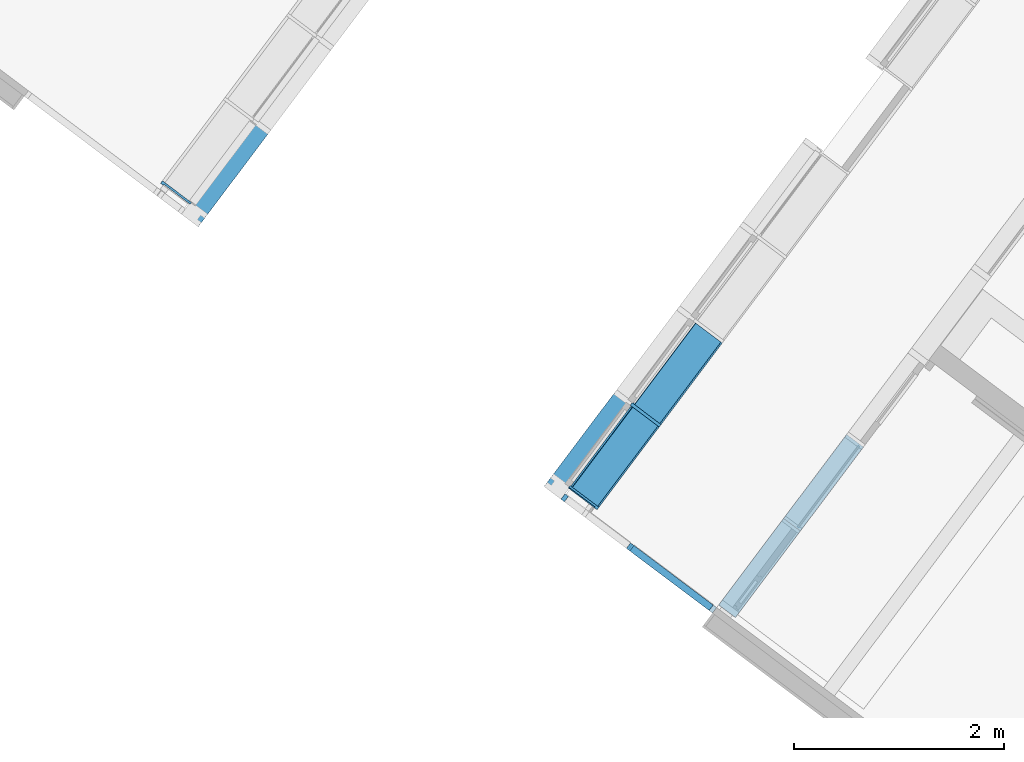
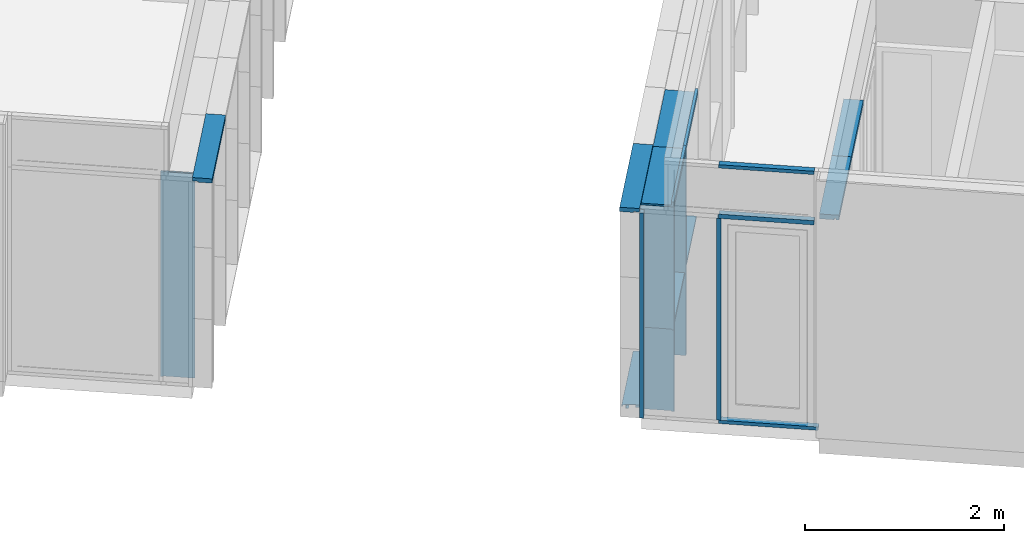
# One storey, part 3 of 243: 19 members, 6 elements without a shape of their own.
"""IFC2X3 building model written with IfcOpenShell, lengths in metres."""

from ifc_helpers import new_model, entity, si_unit, converted_unit, derived_unit, direction, frame, frame_2d, origin, place, context, subcontext, project, spatial, polyline, circle_curve, parameter, trimmed, segment, composite_curve, rectangle, outline, extrude, source, transform, mapped, material, type_object, type_shapes, element, aggregate, save


model = new_model("IFC2X3")

# Units and contexts
model_context = context("Model", 3, precision=1e-05, world=origin(), true_north=direction((6.123031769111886e-17, 1.0)))
body_context = subcontext(model_context, "Body", "Model", "MODEL_VIEW")
ifc_project = project(units=[si_unit("LENGTHUNIT", "METRE"), si_unit("AREAUNIT", "SQUARE_METRE"), si_unit("VOLUMEUNIT", "CUBIC_METRE"), converted_unit("PLANEANGLEUNIT", "DEGREE", entity("IfcRatioMeasure", 0.017453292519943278), si_unit("PLANEANGLEUNIT", "RADIAN"), dimensions=[0, 0, 0, 0, 0, 0, 0]), si_unit("MASSUNIT", "GRAM", prefix="KILO"), derived_unit("MASSDENSITYUNIT", [(si_unit("MASSUNIT", "GRAM", prefix="KILO"), 1), (si_unit("LENGTHUNIT", "METRE"), -3)]), derived_unit("IONCONCENTRATIONUNIT", [(si_unit("MASSUNIT", "GRAM", prefix="KILO"), 1), (si_unit("LENGTHUNIT", "METRE"), -3)]), derived_unit("MOMENTOFINERTIAUNIT", [(si_unit("LENGTHUNIT", "METRE"), 4)]), si_unit("TIMEUNIT", "SECOND"), si_unit("FREQUENCYUNIT", "HERTZ"), si_unit("THERMODYNAMICTEMPERATUREUNIT", "DEGREE_CELSIUS"), derived_unit("THERMALTRANSMITTANCEUNIT", [(si_unit("MASSUNIT", "GRAM", prefix="KILO"), 1), (si_unit("THERMODYNAMICTEMPERATUREUNIT", "KELVIN"), -1), (si_unit("TIMEUNIT", "SECOND"), -3)]), derived_unit("THERMALCONDUCTANCEUNIT", [(si_unit("MASSUNIT", "GRAM", prefix="KILO"), 1), (si_unit("THERMODYNAMICTEMPERATUREUNIT", "KELVIN"), -1), (si_unit("TIMEUNIT", "SECOND"), -3), (si_unit("LENGTHUNIT", "METRE"), 1)]), derived_unit("VOLUMETRICFLOWRATEUNIT", [(si_unit("LENGTHUNIT", "METRE"), 3), (si_unit("TIMEUNIT", "SECOND"), -1)]), derived_unit("MASSFLOWRATEUNIT", [(si_unit("MASSUNIT", "GRAM", prefix="KILO"), 1), (si_unit("TIMEUNIT", "SECOND"), -1)]), derived_unit("ROTATIONALFREQUENCYUNIT", [(si_unit("TIMEUNIT", "SECOND"), -1)]), si_unit("ELECTRICCURRENTUNIT", "AMPERE"), si_unit("ELECTRICVOLTAGEUNIT", "VOLT"), si_unit("POWERUNIT", "WATT"), si_unit("FORCEUNIT", "NEWTON", prefix="KILO"), si_unit("ILLUMINANCEUNIT", "LUX"), si_unit("LUMINOUSFLUXUNIT", "LUMEN"), si_unit("LUMINOUSINTENSITYUNIT", "CANDELA"), derived_unit("USERDEFINED", [(si_unit("MASSUNIT", "GRAM", prefix="KILO"), -1), (si_unit("LENGTHUNIT", "METRE"), -2), (si_unit("TIMEUNIT", "SECOND"), 3), (si_unit("LUMINOUSFLUXUNIT", "LUMEN"), 1)]), derived_unit("USERDEFINED", [(si_unit("MASSUNIT", "GRAM", prefix="KILO"), 1), (si_unit("TIMEUNIT", "SECOND"), -3), (si_unit("LENGTHUNIT", "METRE"), 3), (si_unit("ELECTRICCURRENTUNIT", "AMPERE"), -2)]), derived_unit("SOUNDPOWERUNIT", [(si_unit("MASSUNIT", "GRAM", prefix="KILO"), 1), (si_unit("TIMEUNIT", "SECOND"), -3), (si_unit("LENGTHUNIT", "METRE"), 2)]), derived_unit("SOUNDPRESSUREUNIT", [(si_unit("MASSUNIT", "GRAM", prefix="KILO"), 1), (si_unit("LENGTHUNIT", "METRE"), -1), (si_unit("TIMEUNIT", "SECOND"), -2)]), derived_unit("LINEARVELOCITYUNIT", [(si_unit("LENGTHUNIT", "METRE"), 1), (si_unit("TIMEUNIT", "SECOND"), -1)]), si_unit("PRESSUREUNIT", "PASCAL"), derived_unit("USERDEFINED", [(si_unit("MASSUNIT", "GRAM", prefix="KILO"), 1), (si_unit("LENGTHUNIT", "METRE"), -2), (si_unit("TIMEUNIT", "SECOND"), -2)]), derived_unit("LINEARFORCEUNIT", [(si_unit("MASSUNIT", "GRAM", prefix="KILO"), 1), (si_unit("TIMEUNIT", "SECOND"), -2)]), derived_unit("PLANARFORCEUNIT", [(si_unit("MASSUNIT", "GRAM", prefix="KILO"), 1), (si_unit("LENGTHUNIT", "METRE"), -1), (si_unit("TIMEUNIT", "SECOND"), -2)]), derived_unit("SPECIFICHEATCAPACITYUNIT", [(si_unit("THERMODYNAMICTEMPERATUREUNIT", "KELVIN"), -1), (si_unit("LENGTHUNIT", "METRE"), 2), (si_unit("TIMEUNIT", "SECOND"), -2)]), derived_unit("HEATINGVALUEUNIT", [(si_unit("LENGTHUNIT", "METRE"), 2), (si_unit("TIMEUNIT", "SECOND"), -2)]), derived_unit("VAPORPERMEABILITYUNIT", [(si_unit("LENGTHUNIT", "METRE"), -1), (si_unit("TIMEUNIT", "SECOND"), 1)]), derived_unit("DYNAMICVISCOSITYUNIT", [(si_unit("MASSUNIT", "GRAM", prefix="KILO"), 1), (si_unit("TIMEUNIT", "SECOND"), -1), (si_unit("LENGTHUNIT", "METRE"), -1)]), derived_unit("THERMALEXPANSIONCOEFFICIENTUNIT", [(si_unit("THERMODYNAMICTEMPERATUREUNIT", "KELVIN"), -1)]), derived_unit("MODULUSOFELASTICITYUNIT", [(si_unit("MASSUNIT", "GRAM", prefix="KILO"), 1), (si_unit("LENGTHUNIT", "METRE"), -1), (si_unit("TIMEUNIT", "SECOND"), -2)]), derived_unit("ISOTHERMALMOISTURECAPACITYUNIT", [(si_unit("LENGTHUNIT", "METRE"), 3), (si_unit("MASSUNIT", "GRAM", prefix="KILO"), -1)]), derived_unit("MOISTUREDIFFUSIVITYUNIT", [(si_unit("TIMEUNIT", "SECOND"), -1), (si_unit("LENGTHUNIT", "METRE"), 2)])], contexts=[model_context])

# Site, building, storey
site_placement = place(None, frame((0.0, 0.0, 235.0), z_axis=(0.0, 0.0, 1.0), x_axis=(-0.7996477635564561, 0.6004693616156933, 0.0)))
site = spatial("IfcSite", under=ifc_project, at=site_placement, Name="Default", CompositionType="ELEMENT")
building_placement = place(site_placement, origin())
building = spatial("IfcBuilding", under=site, at=building_placement, CompositionType="ELEMENT")
storey_placement = place(building_placement, origin())
storey = spatial("IfcBuildingStorey", under=building, at=storey_placement, Name="P0- Escola", CompositionType="ELEMENT", Elevation=0.0)

# Curtain wall, members
curtain_wall_type_1 = type_object("IfcCurtainWallType", Name="Muro cortina:MC- INT- a1", PredefinedType="NOTDEFINED")
curtain_wall_1_placement = place(storey_placement, origin())
curtain_wall_1 = element("IfcCurtainWall", 1, at=curtain_wall_1_placement, inside=storey, type_object=curtain_wall_type_1, Name="Muro cortina:MC- INT- a1", ObjectType="Muro cortina:MC- INT- a1")
ifc_material_1 = material(Name="_Fusta massisa- T1")
member_type_1 = type_object("IfcMemberType", Name="Montante rectangular:MC- Fusta- 20x6 cm- Esquerra", PredefinedType="MULLION", material=ifc_material_1)
shared_shape_1 = source(origin(), body_context, "Body", "SweptSolid", [
    extrude(outline(polyline([(-0.07000000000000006, -0.01875000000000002), (-0.04000000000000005, -0.01875000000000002), (-0.04000000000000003, -0.0037500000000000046), (-0.02, -0.0037500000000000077), (-0.019999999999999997, -0.018750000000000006), (0.13, -0.018749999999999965), (0.12999999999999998, 0.04125000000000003), (-0.06999999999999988, 0.04124999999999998), (-0.07000000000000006, -0.01875000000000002)])), frame((-0.041249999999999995, -0.029999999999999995, -1.0), z_axis=(0.0, 0.0, 1.0), x_axis=(0.0, -1.0, 0.0)), (0.0, 0.0, 1.0), 0.9999999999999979),
])
type_shapes(member_type_1, [shared_shape_1])
member_1_placement = place(curtain_wall_1_placement, frame((47.32014768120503, -22.41518997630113, 2.565), z_axis=(0.0, -1.0, 0.0), x_axis=(0.0, 0.0, 1.0)))
member_1 = element("IfcMember", 2, at=member_1_placement, type_object=member_type_1, material=ifc_material_1, Name="Montante rectangular:MC- Fusta- 20x6 cm- Esquerra", ObjectType="Montante rectangular:MC- Fusta- 20x6 cm- Esquerra", context=body_context, shape_type="MappedRepresentation", body=[
    mapped(shared_shape_1, transform((0.0, 0.0, 0.0), scale=1.0)),
])
member_type_2 = type_object("IfcMemberType", Name="Montante rectangular:MC- Fusta- 20x6 cm- Esquerra", PredefinedType="MULLION", material=ifc_material_1)
shared_shape_2 = source(origin(), body_context, "Body", "SweptSolid", [
    extrude(outline(polyline([(-0.07000000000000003, -0.01875000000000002), (-0.04000000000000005, -0.01875000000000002), (-0.04000000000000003, -0.0037500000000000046), (-0.020000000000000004, -0.0037500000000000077), (-0.02, -0.018750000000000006), (0.13, -0.018749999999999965), (0.12999999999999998, 0.04125000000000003), (-0.06999999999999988, 0.04124999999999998), (-0.07000000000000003, -0.01875000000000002)])), frame((-0.041249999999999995, -0.03, -1.0299999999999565), z_axis=(0.0, 0.0, 1.0), x_axis=(0.0, -1.0, 0.0)), (0.0, 0.0, 1.0), 1.0299999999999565),
])
type_shapes(member_type_2, [shared_shape_2])
member_2_placement = place(curtain_wall_1_placement, frame((47.32014768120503, -21.415189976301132, 2.565), z_axis=(0.0, -1.0, 0.0), x_axis=(0.0, 0.0, 1.0)))
member_2 = element("IfcMember", 3, at=member_2_placement, type_object=member_type_2, material=ifc_material_1, Name="Montante rectangular:MC- Fusta- 20x6 cm- Esquerra", ObjectType="Montante rectangular:MC- Fusta- 20x6 cm- Esquerra", context=body_context, shape_type="MappedRepresentation", body=[
    mapped(shared_shape_2, transform((0.0, 0.0, 0.0), scale=1.0)),
])
aggregate(curtain_wall_1, [member_1, member_2])

# Curtain wall, member
curtain_wall_type_2 = type_object("IfcCurtainWallType", Name="Muro cortina:MC- INT- k7- Aules infantil", PredefinedType="NOTDEFINED")
curtain_wall_2_placement = place(storey_placement, origin())
curtain_wall_2 = element("IfcCurtainWall", 4, at=curtain_wall_2_placement, inside=storey, type_object=curtain_wall_type_2, Name="Muro cortina:MC- INT- k7- Aules infantil", ObjectType="Muro cortina:MC- INT- k7- Aules infantil")
member_type_3 = type_object("IfcMemberType", Name="Montante rectangular:MC- Fusta- 35x3 cm- Pati aules- Remat esquerra", PredefinedType="MULLION", material=ifc_material_1)
shared_shape_3 = source(origin(), body_context, "Body", "SweptSolid", [
    extrude(outline(polyline([(-0.22000000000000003, -0.01666666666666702), (0.12500000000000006, -0.01666666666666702), (0.125, 0.013333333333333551), (0.09500000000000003, 0.013333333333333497), (0.09500000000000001, 0.003333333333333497), (-0.22000000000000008, 0.003333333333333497), (-0.22000000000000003, -0.01666666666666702)])), frame((-0.013333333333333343, 0.03000000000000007, -2.504999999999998), z_axis=(0.0, 0.0, 1.0), x_axis=(0.0, -1.0, 0.0)), (0.0, 0.0, 1.0), 2.5049999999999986),
])
type_shapes(member_type_3, [shared_shape_3])
member_3_placement = place(curtain_wall_2_placement, frame((54.04514768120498, -20.40519175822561, 2.5049999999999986), z_axis=(0.0, 0.0, 1.0), x_axis=(0.0, 1.0, 0.0)))
member_3 = element("IfcMember", 5, at=member_3_placement, type_object=member_type_3, material=ifc_material_1, Name="Montante rectangular:MC- Fusta- 35x3 cm- Pati aules- Remat esquerra", ObjectType="Montante rectangular:MC- Fusta- 35x3 cm- Pati aules- Remat esquerra", context=body_context, shape_type="MappedRepresentation", body=[
    mapped(shared_shape_3, transform((0.0, 0.0, 0.0), scale=1.0)),
])
aggregate(curtain_wall_2, [member_3])

# Curtain wall, members
curtain_wall_type_3 = type_object("IfcCurtainWallType", Name="Muro cortina:MC- INT- k2", PredefinedType="NOTDEFINED")
curtain_wall_3_placement = place(storey_placement, origin())
curtain_wall_3 = element("IfcCurtainWall", 6, at=curtain_wall_3_placement, inside=storey, type_object=curtain_wall_type_3, Name="Muro cortina:MC- INT- k2", ObjectType="Muro cortina:MC- INT- k2")
member_type_4 = type_object("IfcMemberType", Name="Montante rectangular:MC- Fusta- 35x3 cm- Pati aules- Remat esquerra", PredefinedType="MULLION", material=ifc_material_1)
shared_shape_4 = source(origin(), body_context, "Body", "SweptSolid", [
    extrude(outline(polyline([(-0.12500000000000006, -0.01666666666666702), (0.22000000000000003, -0.01666666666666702), (0.22000000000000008, 0.003333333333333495), (-0.09499999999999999, 0.003333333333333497), (-0.09500000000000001, 0.013333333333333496), (-0.12499999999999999, 0.013333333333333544), (-0.12500000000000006, -0.01666666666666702)])), frame((-0.013333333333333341, -0.030000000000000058, -1.5049999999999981), z_axis=(0.0, 0.0, 1.0), x_axis=(0.0, -1.0, 0.0)), (0.0, 0.0, 1.0), 1.5049999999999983),
])
type_shapes(member_type_4, [shared_shape_4])
member_4_placement = place(curtain_wall_3_placement, frame((49.045147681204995, -20.415191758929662, 2.5049999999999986), z_axis=(0.0, 0.0, 1.0), x_axis=(0.0, 1.0, 0.0)))
member_4 = element("IfcMember", 7, at=member_4_placement, type_object=member_type_4, material=ifc_material_1, Name="Montante rectangular:MC- Fusta- 35x3 cm- Pati aules- Remat esquerra", ObjectType="Montante rectangular:MC- Fusta- 35x3 cm- Pati aules- Remat esquerra", context=body_context, shape_type="MappedRepresentation", body=[
    mapped(shared_shape_4, transform((0.0, 0.0, 0.0), scale=1.0)),
])
member_type_5 = type_object("IfcMemberType", Name="Montante rectangular:MC- Fusta- 35x3 cm- Pati aules- Remat superior", PredefinedType="MULLION", material=ifc_material_1)
shared_shape_5 = source(origin(), body_context, "Body", "SweptSolid", [
    extrude(outline(polyline([(-0.12166666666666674, -0.02666666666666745), (0.21333333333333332, -0.02666666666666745), (0.2133333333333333, -0.006666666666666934), (-0.09166666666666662, -0.006666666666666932), (-0.09166666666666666, 0.03333333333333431), (-0.12166666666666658, 0.03333333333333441), (-0.12166666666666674, -0.02666666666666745)])), frame((-0.033333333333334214, -0.026666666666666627, -1.0), z_axis=(0.0, 0.0, 1.0), x_axis=(0.0, -1.0, 0.0)), (0.0, 0.0, 1.0), 0.9999999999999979),
])
type_shapes(member_type_5, [shared_shape_5])
member_5_placement = place(curtain_wall_3_placement, frame((49.045147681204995, -21.41519175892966, 2.565), z_axis=(0.0, -1.0, 0.0), x_axis=(0.0, 0.0, 1.0)))
member_5 = element("IfcMember", 8, at=member_5_placement, type_object=member_type_5, material=ifc_material_1, Name="Montante rectangular:MC- Fusta- 35x3 cm- Pati aules- Remat superior", ObjectType="Montante rectangular:MC- Fusta- 35x3 cm- Pati aules- Remat superior", context=body_context, shape_type="MappedRepresentation", body=[
    mapped(shared_shape_5, transform((0.0, 0.0, 0.0), scale=1.0)),
])
member_type_6 = type_object("IfcMemberType", Name="Montante rectangular:MC- Fusta- 35x3 cm- Centre", PredefinedType="MULLION", material=ifc_material_1)
shared_shape_6 = source(origin(), body_context, "Body", "SweptSolid", [
    extrude(rectangle(XDim=0.3450000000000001, YDim=0.030000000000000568, at=frame_2d((0.0, -1.3964523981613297e-16), x_axis=(1.0, 0.0))), frame((0.0, -0.07750000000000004, -1.0), z_axis=(0.0, 0.0, 1.0), x_axis=(0.0, -1.0, 0.0)), (0.0, 0.0, 1.0), 1.0),
])
type_shapes(member_type_6, [shared_shape_6])
member_6_placement = place(curtain_wall_3_placement, frame((49.045147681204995, -21.41519175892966, 0.0), z_axis=(0.0, 0.0, -1.0), x_axis=(0.0, -1.0, 0.0)))
member_6 = element("IfcMember", 9, at=member_6_placement, type_object=member_type_6, material=ifc_material_1, Name="Montante rectangular:MC- Fusta- 35x3 cm- Centre", ObjectType="Montante rectangular:MC- Fusta- 35x3 cm- Centre", context=body_context, shape_type="MappedRepresentation", body=[
    mapped(shared_shape_6, transform((0.0, 0.0, 0.0), scale=1.0)),
])
member_type_7 = type_object("IfcMemberType", Name="Montante rectangular:MC- Fusta- 35x3 cm- Pati aules- Remat superior", PredefinedType="MULLION", material=ifc_material_1)
shared_shape_7 = source(origin(), body_context, "Body", "SweptSolid", [
    extrude(outline(polyline([(-0.12166666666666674, -0.02666666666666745), (0.21333333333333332, -0.02666666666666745), (0.2133333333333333, -0.006666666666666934), (-0.09166666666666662, -0.006666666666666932), (-0.09166666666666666, 0.03333333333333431), (-0.12166666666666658, 0.03333333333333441), (-0.12166666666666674, -0.02666666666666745)])), frame((-0.033333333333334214, -0.026666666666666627, -1.0), z_axis=(0.0, 0.0, 1.0), x_axis=(0.0, -1.0, 0.0)), (0.0, 0.0, 1.0), 0.9999999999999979),
])
type_shapes(member_type_7, [shared_shape_7])
member_7_placement = place(curtain_wall_3_placement, frame((49.045147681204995, -22.41519175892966, 2.565), z_axis=(0.0, -1.0, 0.0), x_axis=(0.0, 0.0, 1.0)))
member_7 = element("IfcMember", 10, at=member_7_placement, type_object=member_type_7, material=ifc_material_1, Name="Montante rectangular:MC- Fusta- 35x3 cm- Pati aules- Remat superior", ObjectType="Montante rectangular:MC- Fusta- 35x3 cm- Pati aules- Remat superior", context=body_context, shape_type="MappedRepresentation", body=[
    mapped(shared_shape_7, transform((0.0, 0.0, 0.0), scale=1.0)),
])
member_type_8 = type_object("IfcMemberType", Name="Montante rectangular:MC- Fusta- 35x3 cm- Pati aules- Remat esquerra", PredefinedType="MULLION", material=ifc_material_1)
shared_shape_8 = source(origin(), body_context, "Body", "SweptSolid", [
    extrude(outline(polyline([(-0.12500000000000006, -0.01666666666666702), (0.22000000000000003, -0.01666666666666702), (0.22000000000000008, 0.003333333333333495), (-0.09499999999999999, 0.003333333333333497), (-0.09500000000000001, 0.013333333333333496), (-0.12499999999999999, 0.013333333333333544), (-0.12500000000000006, -0.01666666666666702)])), frame((-0.013333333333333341, -0.030000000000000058, -1.0), z_axis=(0.0, 0.0, 1.0), x_axis=(0.0, -1.0, 0.0)), (0.0, 0.0, 1.0), 0.9999999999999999),
])
type_shapes(member_type_8, [shared_shape_8])
member_8_placement = place(curtain_wall_3_placement, frame((49.045147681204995, -20.415191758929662, 1.0), z_axis=(0.0, 0.0, 1.0), x_axis=(0.0, 1.0, 0.0)))
member_8 = element("IfcMember", 11, at=member_8_placement, type_object=member_type_8, material=ifc_material_1, Name="Montante rectangular:MC- Fusta- 35x3 cm- Pati aules- Remat esquerra", ObjectType="Montante rectangular:MC- Fusta- 35x3 cm- Pati aules- Remat esquerra", context=body_context, shape_type="MappedRepresentation", body=[
    mapped(shared_shape_8, transform((0.0, 0.0, 0.0), scale=1.0)),
])
member_type_9 = type_object("IfcMemberType", Name="Montante rectangular:MC- Fusta- 35x3 cm- Pati aules- Prestatge", PredefinedType="MULLION", material=ifc_material_1)
shared_shape_9 = source(origin(), body_context, "Body", "SweptSolid", [
    extrude(rectangle(XDim=0.30000000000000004, YDim=0.03000000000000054, at=frame_2d((0.0, -1.231653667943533e-16), x_axis=(1.0, 0.0))), frame((0.0, -0.07000000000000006, -0.9549999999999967), z_axis=(0.0, 0.0, 1.0), x_axis=(0.0, -1.0, 0.0)), (0.0, 0.0, 1.0), 0.954999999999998),
])
type_shapes(member_type_9, [shared_shape_9])
member_9_placement = place(curtain_wall_3_placement, frame((49.045147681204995, -21.400191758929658, 1.0), z_axis=(0.0, -1.0, 0.0), x_axis=(0.0, 0.0, 1.0)))
member_9 = element("IfcMember", 12, at=member_9_placement, type_object=member_type_9, material=ifc_material_1, Name="Montante rectangular:MC- Fusta- 35x3 cm- Pati aules- Prestatge", ObjectType="Montante rectangular:MC- Fusta- 35x3 cm- Pati aules- Prestatge", context=body_context, shape_type="MappedRepresentation", body=[
    mapped(shared_shape_9, transform((0.0, 0.0, 0.0), scale=1.0)),
])
member_type_10 = type_object("IfcMemberType", Name="Montante rectangular:MC- Fusta- 35x3 cm- Pati aules- Prestatge", PredefinedType="MULLION", material=ifc_material_1)
shared_shape_10 = source(origin(), body_context, "Body", "SweptSolid", [
    extrude(rectangle(XDim=0.30000000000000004, YDim=0.03000000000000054, at=frame_2d((0.0, -1.231653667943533e-16), x_axis=(1.0, 0.0))), frame((0.0, -0.07000000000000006, -0.9699999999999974), z_axis=(0.0, 0.0, 1.0), x_axis=(0.0, -1.0, 0.0)), (0.0, 0.0, 1.0), 0.969999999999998),
])
type_shapes(member_type_10, [shared_shape_10])
member_10_placement = place(curtain_wall_3_placement, frame((49.045147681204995, -22.400191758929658, 1.0), z_axis=(0.0, -1.0, 0.0), x_axis=(0.0, 0.0, 1.0)))
member_10 = element("IfcMember", 13, at=member_10_placement, type_object=member_type_10, material=ifc_material_1, Name="Montante rectangular:MC- Fusta- 35x3 cm- Pati aules- Prestatge", ObjectType="Montante rectangular:MC- Fusta- 35x3 cm- Pati aules- Prestatge", context=body_context, shape_type="MappedRepresentation", body=[
    mapped(shared_shape_10, transform((0.0, 0.0, 0.0), scale=1.0)),
])
member_type_11 = type_object("IfcMemberType", Name="Montante rectangular:MC- Fusta- 35x3 cm- Centre", PredefinedType="MULLION", material=ifc_material_1)
shared_shape_11 = source(origin(), body_context, "Body", "SweptSolid", [
    extrude(rectangle(XDim=0.3450000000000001, YDim=0.030000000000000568, at=frame_2d((0.0, -1.3964523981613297e-16), x_axis=(1.0, 0.0))), frame((0.0, -0.07750000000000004, -1.504999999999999), z_axis=(0.0, 0.0, 1.0), x_axis=(0.0, -1.0, 0.0)), (0.0, 0.0, 1.0), 1.504999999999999),
])
type_shapes(member_type_11, [shared_shape_11])
member_11_placement = place(curtain_wall_3_placement, frame((49.045147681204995, -21.41519175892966, 1.0), z_axis=(0.0, 0.0, -1.0), x_axis=(0.0, -1.0, 0.0)))
member_11 = element("IfcMember", 14, at=member_11_placement, type_object=member_type_11, material=ifc_material_1, Name="Montante rectangular:MC- Fusta- 35x3 cm- Centre", ObjectType="Montante rectangular:MC- Fusta- 35x3 cm- Centre", context=body_context, shape_type="MappedRepresentation", body=[
    mapped(shared_shape_11, transform((0.0, 0.0, 0.0), scale=1.0)),
])
aggregate(curtain_wall_3, [member_4, member_5, member_6, member_7, member_8, member_9, member_10, member_11])

# Curtain wall, member
curtain_wall_type_4 = type_object("IfcCurtainWallType", Name="Muro cortina:MC- EXT- MC2", PredefinedType="NOTDEFINED")
curtain_wall_4_placement = place(storey_placement, origin())
curtain_wall_4 = element("IfcCurtainWall", 15, at=curtain_wall_4_placement, inside=storey, type_object=curtain_wall_type_4, Name="Muro cortina:MC- EXT- MC2", ObjectType="Muro cortina:MC- EXT- MC2")
ifc_material_2 = material(Name="_Alumini- T1- Perfil")
member_type_12 = type_object("IfcMemberType", Name="Montante rectangular:MC- Alu- 140x52,5 cm- Fa patis- Superior", PredefinedType="MULLION", material=ifc_material_2)
shared_shape_12 = source(origin(), body_context, "Body", "SweptSolid", [
    extrude(outline(polyline([(-0.11366666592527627, -0.021249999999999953), (0.02633333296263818, -0.021249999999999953), (0.02633333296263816, -0.010000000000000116), (0.08733333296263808, -0.010000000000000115), (0.08733333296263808, 0.03125000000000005), (-0.11366666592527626, 0.031250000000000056), (-0.11366666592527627, -0.021249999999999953)])), frame((-0.031250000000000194, 0.027333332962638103, -1.1262500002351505), z_axis=(0.0, 0.0, 1.0), x_axis=(0.0, -1.0, 0.0)), (0.0, 0.0, 1.0), 1.1262500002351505),
])
type_shapes(member_type_12, [shared_shape_12])
member_12_placement = place(curtain_wall_4_placement, frame((53.74514768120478, -21.415191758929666, 2.545), z_axis=(0.0, -1.0, 0.0), x_axis=(0.0, 0.0, 1.0)))
member_12 = element("IfcMember", 16, at=member_12_placement, type_object=member_type_12, material=ifc_material_2, Name="Montante rectangular:MC- Alu- 140x52,5 cm- Fa patis- Superior", ObjectType="Montante rectangular:MC- Alu- 140x52,5 cm- Fa patis- Superior", context=body_context, shape_type="MappedRepresentation", body=[
    mapped(shared_shape_12, transform((0.0, 0.0, 0.0), scale=1.0)),
])
aggregate(curtain_wall_4, [member_12])

# Curtain wall, members
curtain_wall_type_5 = type_object("IfcCurtainWallType", Name="Muro cortina:MC- EXT- AL1- Fa porxo", PredefinedType="NOTDEFINED")
curtain_wall_5_placement = place(storey_placement, origin())
curtain_wall_5 = element("IfcCurtainWall", 17, at=curtain_wall_5_placement, inside=storey, type_object=curtain_wall_type_5, Name="Muro cortina:MC- EXT- AL1- Fa porxo", ObjectType="Muro cortina:MC- EXT- AL1- Fa porxo")
member_type_13 = type_object("IfcMemberType", Name="Montante rectangular:MC- Alu- 65x41 cm- Fa Porxo- Centre", PredefinedType="MULLION", material=ifc_material_2)
shared_shape_13 = source(origin(), body_context, "Body", "SweptSolid", [
    extrude(rectangle(XDim=0.06500000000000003, YDim=0.041000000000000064, at=frame_2d((0.0, -8.673617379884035e-18), x_axis=(1.0, 0.0))), frame((-0.020500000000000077, -0.032499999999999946, -0.9639999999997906), z_axis=(0.0, 0.0, 1.0), x_axis=(0.0, -1.0, 0.0)), (0.0, 0.0, 1.0), 0.963999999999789),
])
type_shapes(member_type_13, [shared_shape_13])
member_13_placement = place(curtain_wall_5_placement, frame((47.52114768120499, -20.288941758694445, 3.150000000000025), z_axis=(-1.0, 0.0, 0.0), x_axis=(0.0, 0.0, 1.0)))
member_13 = element("IfcMember", 18, at=member_13_placement, type_object=member_type_13, material=ifc_material_2, Name="Montante rectangular:MC- Alu- 65x41 cm- Fa Porxo- Centre", ObjectType="Montante rectangular:MC- Alu- 65x41 cm- Fa Porxo- Centre", context=body_context, shape_type="MappedRepresentation", body=[
    mapped(shared_shape_13, transform((0.0, 0.0, 0.0), scale=1.0)),
])
member_type_14 = type_object("IfcMemberType", Name="Montante rectangular:MC- Alu- 65x41 cm- Fa Porxo- Centre", PredefinedType="MULLION", material=ifc_material_2)
shared_shape_14 = source(origin(), body_context, "Body", "SweptSolid", [
    extrude(rectangle(XDim=0.06500000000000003, YDim=0.041000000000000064, at=frame_2d((3.469446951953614e-18, -5.204170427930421e-18), x_axis=(1.0, 0.0))), frame((-0.020499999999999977, -0.032499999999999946, -2.5122499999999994), z_axis=(0.0, 0.0, 1.0), x_axis=(0.0, -1.0, 0.0)), (0.0, 0.0, 1.0), 2.5122499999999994),
])
type_shapes(member_type_14, [shared_shape_14])
member_14_placement = place(curtain_wall_5_placement, frame((49.28514768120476, -20.28894175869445, 2.49225)))
member_14 = element("IfcMember", 19, at=member_14_placement, type_object=member_type_14, material=ifc_material_2, Name="Montante rectangular:MC- Alu- 65x41 cm- Fa Porxo- Centre", ObjectType="Montante rectangular:MC- Alu- 65x41 cm- Fa Porxo- Centre", context=body_context, shape_type="MappedRepresentation", body=[
    mapped(shared_shape_14, transform((0.0, 0.0, 0.0), scale=1.0)),
])
member_type_15 = type_object("IfcMemberType", Name="Montante rectangular:MC- Alu- 65x41 cm- Fa Porxo- Centre", PredefinedType="MULLION", material=ifc_material_2)
shared_shape_15 = source(origin(), body_context, "Body", "SweptSolid", [
    extrude(rectangle(XDim=0.06500000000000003, YDim=0.041000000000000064, at=frame_2d((3.469446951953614e-18, -5.204170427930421e-18), x_axis=(1.0, 0.0))), frame((-0.020499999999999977, -0.032499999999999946, -1.004999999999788), z_axis=(0.0, 0.0, 1.0), x_axis=(0.0, -1.0, 0.0)), (0.0, 0.0, 1.0), 1.004999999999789),
])
type_shapes(member_type_15, [shared_shape_15])
member_15_placement = place(curtain_wall_5_placement, frame((48.48514768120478, -20.28894175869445, -0.02000000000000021), z_axis=(1.0, 0.0, 0.0), x_axis=(0.0, 0.0, -1.0)))
member_15 = element("IfcMember", 20, at=member_15_placement, type_object=member_type_15, material=ifc_material_2, Name="Montante rectangular:MC- Alu- 65x41 cm- Fa Porxo- Centre", ObjectType="Montante rectangular:MC- Alu- 65x41 cm- Fa Porxo- Centre", context=body_context, shape_type="MappedRepresentation", body=[
    mapped(shared_shape_15, transform((0.0, 0.0, 0.0), scale=1.0)),
])
member_type_16 = type_object("IfcMemberType", Name="Montante rectangular:MC- Alu- 65x52,5 cm- Fa Porxo- Centre", PredefinedType="MULLION", material=ifc_material_2)
shared_shape_16 = source(origin(), body_context, "Body", "SweptSolid", [
    extrude(rectangle(XDim=0.06500000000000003, YDim=0.05300000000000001, at=frame_2d((3.469446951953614e-18, 3.469446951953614e-18), x_axis=(1.0, 0.0))), frame((0.0, -0.03249999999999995, -0.96399999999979), z_axis=(0.0, 0.0, 1.0), x_axis=(0.0, -1.0, 0.0)), (0.0, 0.0, 1.0), 0.9639999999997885),
])
type_shapes(member_type_16, [shared_shape_16])
member_16_placement = place(curtain_wall_5_placement, frame((47.52114768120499, -20.288941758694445, 2.51875), z_axis=(-1.0, 0.0, 0.0), x_axis=(0.0, 0.0, 1.0)))
member_16 = element("IfcMember", 21, at=member_16_placement, type_object=member_type_16, material=ifc_material_2, Name="Montante rectangular:MC- Alu- 65x52,5 cm- Fa Porxo- Centre", ObjectType="Montante rectangular:MC- Alu- 65x52,5 cm- Fa Porxo- Centre", context=body_context, shape_type="MappedRepresentation", body=[
    mapped(shared_shape_16, transform((0.0, 0.0, 0.0), scale=1.0)),
])
member_type_17 = type_object("IfcMemberType", Name="Montante rectangular:MC- Alu- 65x41 cm- Fa Porxo- Centre", PredefinedType="MULLION", material=ifc_material_2)
shared_shape_17 = source(origin(), body_context, "Body", "SweptSolid", [
    extrude(rectangle(XDim=0.06500000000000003, YDim=0.04100000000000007, at=frame_2d((0.0, -8.673617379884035e-18), x_axis=(1.0, 0.0))), frame((0.0, -0.032499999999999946, -2.4712500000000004), z_axis=(0.0, 0.0, 1.0), x_axis=(0.0, -1.0, 0.0)), (0.0, 0.0, 1.0), 2.4712500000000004),
])
type_shapes(member_type_17, [shared_shape_17])
member_17_placement = place(curtain_wall_5_placement, frame((48.48514768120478, -20.28894175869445, 0.020999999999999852), z_axis=(0.0, 0.0, -1.0), x_axis=(-1.0, 0.0, 0.0)))
member_17 = element("IfcMember", 22, at=member_17_placement, type_object=member_type_17, material=ifc_material_2, Name="Montante rectangular:MC- Alu- 65x41 cm- Fa Porxo- Centre", ObjectType="Montante rectangular:MC- Alu- 65x41 cm- Fa Porxo- Centre", context=body_context, shape_type="MappedRepresentation", body=[
    mapped(shared_shape_17, transform((0.0, 0.0, 0.0), scale=1.0)),
])
aggregate(curtain_wall_5, [member_13, member_14, member_15, member_16, member_17])

curtain_wall_type_6 = type_object("IfcCurtainWallType", Name="Muro cortina:MC- EXT- MC5", PredefinedType="NOTDEFINED")
curtain_wall_6_placement = place(storey_placement, origin())
curtain_wall_6 = element("IfcCurtainWall", 23, at=curtain_wall_6_placement, inside=storey, type_object=curtain_wall_type_6, Name="Muro cortina:MC- EXT- MC5", ObjectType="Muro cortina:MC- EXT- MC5")
member_type_18 = type_object("IfcMemberType", Name="Montante rectangular:MC- Alu- 140x52,5 cm- Fa patis- inferior", PredefinedType="MULLION", material=ifc_material_2)
shared_shape_18 = source(origin(), body_context, "Body", "SweptSolid", [
    extrude(outline(composite_curve([segment(polyline([(-0.144167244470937, -0.02586710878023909), (-0.12786724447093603, -0.025867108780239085)]), True, "CONTINUOUS"), segment(polyline([(-0.12786724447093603, -0.025867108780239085), (-0.12786724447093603, -0.02316710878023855)]), True, "CONTINUOUS"), segment(polyline([(-0.12786724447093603, -0.02316710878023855), (-0.0678672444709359, -0.02316710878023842)]), True, "CONTINUOUS"), segment(polyline([(-0.0678672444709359, -0.02316710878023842), (0.07031215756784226, -0.010722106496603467)]), True, "CONTINUOUS"), segment(trimmed(circle_curve(frame_2d((0.07013275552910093, -0.008730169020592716), x_axis=(0.0897010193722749, -0.9959687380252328)), 0.0019999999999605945), [parameter(0.0)], [parameter(84.8535928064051)], True, "PARAMETER"), True, "CONTINUOUS"), segment(polyline([(0.07213275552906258, -0.00873016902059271), (0.07213275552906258, 0.0062663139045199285)]), True, "CONTINUOUS"), segment(trimmed(circle_curve(frame_2d((0.070132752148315, 0.006266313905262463), x_axis=(1.0, 0.0)), 0.002000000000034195), [parameter(0.0)], [parameter(90.00000002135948)], True, "PARAMETER"), True, "CONTINUOUS"), segment(polyline([(0.070132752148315, 0.00826631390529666), (0.06213275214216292, 0.008266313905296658)]), True, "CONTINUOUS"), segment(polyline([(0.06213275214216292, 0.008266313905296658), (0.06213275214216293, 0.006266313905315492)]), True, "CONTINUOUS"), segment(polyline([(0.06213275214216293, 0.006266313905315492), (0.06963275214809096, 0.006266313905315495)]), True, "CONTINUOUS"), segment(trimmed(circle_curve(frame_2d((0.06963275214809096, 0.005766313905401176), x_axis=(0.0, 1.0)), 0.0004999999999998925), [parameter(269.99999999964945)], [parameter(0.0)], True, "PARAMETER"), False, "CONTINUOUS"), segment(polyline([(0.07013275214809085, 0.0057663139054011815), (0.07013275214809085, -0.008730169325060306)]), True, "CONTINUOUS"), segment(polyline([(0.07013275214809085, -0.008730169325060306), (0.03213275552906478, -0.012152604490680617)]), True, "CONTINUOUS"), segment(polyline([(0.03213275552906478, -0.012152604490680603), (0.03213275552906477, 0.02913289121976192)]), True, "CONTINUOUS"), segment(polyline([(0.03213275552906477, 0.02913289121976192), (0.0021327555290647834, 0.02913289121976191)]), True, "CONTINUOUS"), segment(polyline([(0.0021327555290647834, 0.02913289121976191), (0.0021327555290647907, 0.027132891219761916)]), True, "CONTINUOUS"), segment(polyline([(0.0021327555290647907, 0.027132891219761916), (0.03013275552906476, 0.027132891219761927)]), True, "CONTINUOUS"), segment(polyline([(0.03013275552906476, 0.02713289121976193), (0.03013275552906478, -0.012332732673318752)]), True, "CONTINUOUS"), segment(polyline([(0.03013275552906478, -0.012332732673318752), (-0.06786724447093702, -0.021159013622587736)]), True, "CONTINUOUS"), segment(polyline([(-0.06786724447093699, -0.021159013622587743), (-0.067867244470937, 0.0091328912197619)]), True, "CONTINUOUS"), segment(polyline([(-0.06786724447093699, 0.0091328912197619), (-0.14416724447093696, 0.009132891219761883)]), True, "CONTINUOUS"), segment(polyline([(-0.14416724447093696, 0.009132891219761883), (-0.144167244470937, -0.02586710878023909)]), True, "CONTINUOUS")], self_intersect=False)), frame((-0.029132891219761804, -0.06786724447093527, -0.9474999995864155), z_axis=(0.0, 0.0, 1.0), x_axis=(0.0, -1.0, 0.0)), (0.0, 0.0, 1.0), 0.9474999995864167),
])
type_shapes(member_type_18, [shared_shape_18])
member_18_placement = place(curtain_wall_6_placement, frame((49.3451476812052, -20.441441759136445, -0.02), z_axis=(0.0, 1.0, 0.0), x_axis=(0.0, 0.0, -1.0)))
member_18 = element("IfcMember", 24, at=member_18_placement, type_object=member_type_18, material=ifc_material_2, Name="Montante rectangular:MC- Alu- 140x52,5 cm- Fa patis- inferior", ObjectType="Montante rectangular:MC- Alu- 140x52,5 cm- Fa patis- inferior", context=body_context, shape_type="MappedRepresentation", body=[
    mapped(shared_shape_18, transform((0.0, 0.0, 0.0), scale=1.0)),
])
member_type_19 = type_object("IfcMemberType", Name="Montante rectangular:MC- Alu- 140x52,5 cm- Fa patis- Superior", PredefinedType="MULLION", material=ifc_material_2)
shared_shape_19 = source(origin(), body_context, "Body", "SweptSolid", [
    extrude(outline(polyline([(-0.026333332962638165, -0.021249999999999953), (0.11366666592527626, -0.021249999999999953), (0.11366666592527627, 0.031250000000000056), (-0.08733333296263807, 0.03125000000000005), (-0.0873333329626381, -0.010000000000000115), (-0.026333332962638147, -0.010000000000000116), (-0.026333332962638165, -0.021249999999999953)])), frame((-0.031250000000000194, -0.02733333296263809, -1.1262500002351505), z_axis=(0.0, 0.0, 1.0), x_axis=(0.0, -1.0, 0.0)), (0.0, 0.0, 1.0), 1.1262500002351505),
])
type_shapes(member_type_19, [shared_shape_19])
member_19_placement = place(curtain_wall_6_placement, frame((49.3451476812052, -21.41519175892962, 2.545), z_axis=(0.0, -1.0, 0.0), x_axis=(0.0, 0.0, 1.0)))
member_19 = element("IfcMember", 25, at=member_19_placement, type_object=member_type_19, material=ifc_material_2, Name="Montante rectangular:MC- Alu- 140x52,5 cm- Fa patis- Superior", ObjectType="Montante rectangular:MC- Alu- 140x52,5 cm- Fa patis- Superior", context=body_context, shape_type="MappedRepresentation", body=[
    mapped(shared_shape_19, transform((0.0, 0.0, 0.0), scale=1.0)),
])
aggregate(curtain_wall_6, [member_18, member_19])

save(model, "model.ifc")
